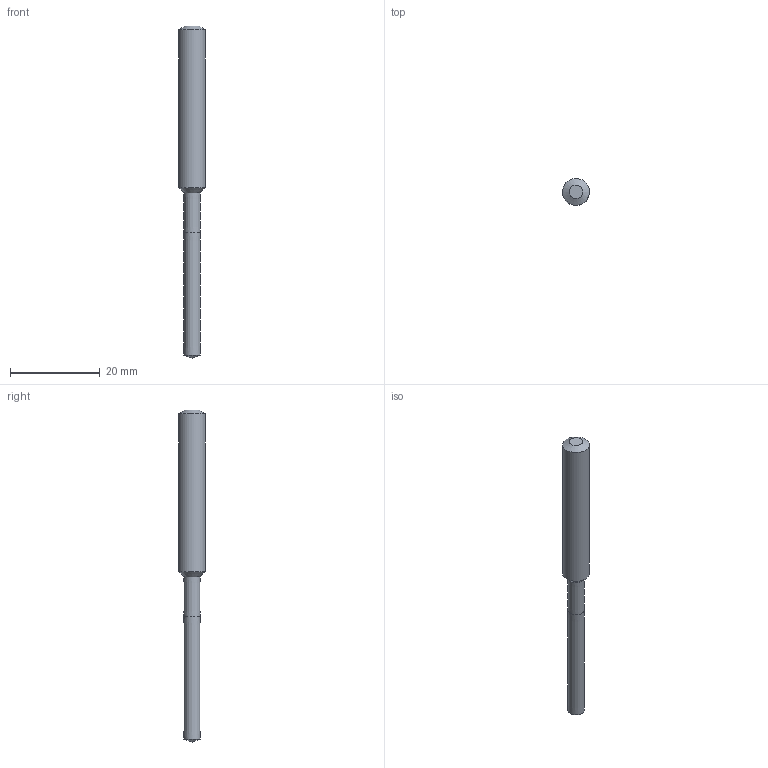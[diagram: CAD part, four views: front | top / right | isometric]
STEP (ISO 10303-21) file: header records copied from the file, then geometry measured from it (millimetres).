
FILE_DESCRIPTION(/* description */ (''),/* implementation_level */ '2;1');
FILE_NAME(/* name */ 'CAD_6618622_MOD_003_003_FR.stp',/* time_stamp */ '2014-06-16T15:43:08+02:00',/* author */ ('VR - Julian Pauli'),/* organization */ ('Walter AG'),/* preprocessor_version */ 'ST-DEVELOPER v11',/* originating_system */ 'SIEMENS UGS NX 6.0',/* authorisation */ '');
FILE_SCHEMA (('AUTOMOTIVE_DESIGN { 1 0 10303 214 1 1 1 1 }'));
Length unit declared in the file: millimetre
Products named in the file (1): DC150-6618622_simple
Bounding box: 6 x 6 x 74 mm (x, y, z)
Volume: 1399.8 mm3; surface area: 1159.3 mm2
Topology: 2 solids, 2 shells, 9 faces, 18 edges, 14 vertices
Faces by surface type: cone 5, plane 3, cylinder 1
Full cylindrical faces by diameter (mm): 6 x1
Entity records: 216 total; most frequent: DIRECTION 36, CARTESIAN_POINT 27, AXIS2_PLACEMENT_3D 17, EDGE_LOOP 14, ORIENTED_EDGE 14, FACE_BOUND 12, ADVANCED_FACE 9, VERTEX_POINT 8
